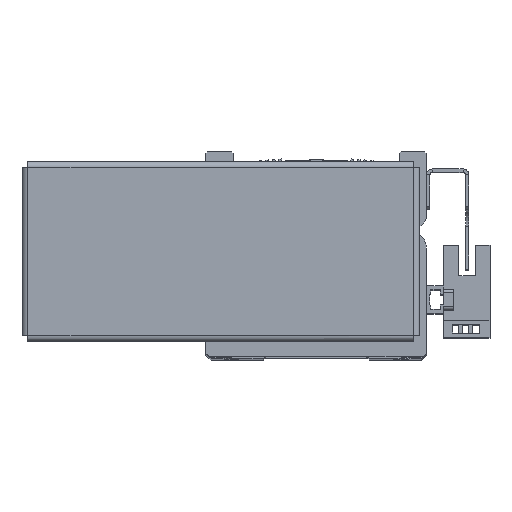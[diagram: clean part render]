
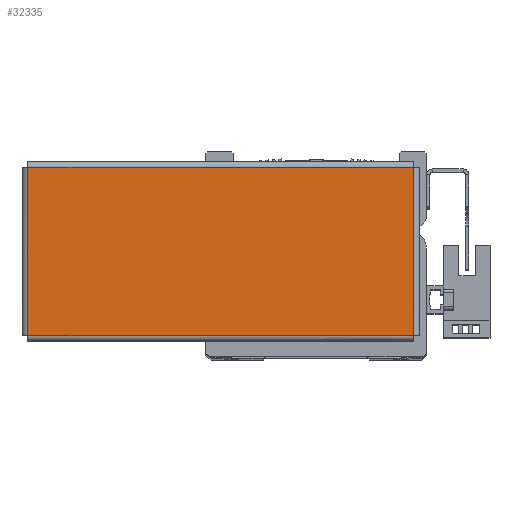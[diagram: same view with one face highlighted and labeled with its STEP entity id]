
A CAD part, top view. The second image highlights one B-rep face of the part: STEP entity #32335.
In plain terms, the highlighted planar face has unit normal (0, 0, 1) as drawn and (0, 0, -1) by its records, which use the part's own axes.
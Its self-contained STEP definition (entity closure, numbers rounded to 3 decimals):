
#719 = EDGE_LOOP ( 'NONE', ( #37525, #37520, #37532, #37524 ) ) ;
#2849 = EDGE_CURVE ( 'NONE', #37013, #37016, #7658, .T. ) ;
#2931 = EDGE_CURVE ( 'NONE', #37018, #36980, #7880, .T. ) ;
#2948 = EDGE_CURVE ( 'NONE', #37016, #37018, #7871, .T. ) ;
#2958 = EDGE_CURVE ( 'NONE', #36980, #37013, #6794, .T. ) ;
#6742 = VECTOR ( 'NONE', #27023, 1000. ) ;
#6794 = LINE ( 'NONE', #26959, #6742 ) ;
#7658 = LINE ( 'NONE', #26575, #7659 ) ;
#7659 = VECTOR ( 'NONE', #26576, 1000. ) ;
#7860 = VECTOR ( 'NONE', #26913, 1000. ) ;
#7871 = LINE ( 'NONE', #26987, #7872 ) ;
#7872 = VECTOR ( 'NONE', #26982, 1000. ) ;
#7880 = LINE ( 'NONE', #26932, #7860 ) ;
#10591 = CARTESIAN_POINT ( 'NONE',  ( -56.863, 24.763, -1. ) ) ;
#10597 = CARTESIAN_POINT ( 'NONE',  ( -56.863, -24.763, -1. ) ) ;
#10617 = CARTESIAN_POINT ( 'NONE',  ( 56.863, 24.763, -1. ) ) ;
#10644 = CARTESIAN_POINT ( 'NONE',  ( 56.863, -24.763, -1. ) ) ;
#20642 = DIRECTION ( 'NONE',  ( 0., 0., 1. ) ) ;
#20656 = PLANE ( 'NONE',  #31112 ) ;
#20657 = CARTESIAN_POINT ( 'NONE',  ( 0., 0., -1. ) ) ;
#20659 = DIRECTION ( 'NONE',  ( 1., 0., 0. ) ) ;
#21241 = FACE_OUTER_BOUND ( 'NONE', #719, .T. ) ;
#26575 = CARTESIAN_POINT ( 'NONE',  ( -56.893, 24.763, -1. ) ) ;
#26576 = DIRECTION ( 'NONE',  ( 1., 0., 0. ) ) ;
#26913 = DIRECTION ( 'NONE',  ( -1., 0., 0. ) ) ;
#26932 = CARTESIAN_POINT ( 'NONE',  ( 56.893, -24.763, -1. ) ) ;
#26959 = CARTESIAN_POINT ( 'NONE',  ( -56.863, -24.793, -1. ) ) ;
#26982 = DIRECTION ( 'NONE',  ( 0., -1., 0. ) ) ;
#26987 = CARTESIAN_POINT ( 'NONE',  ( 56.863, 24.793, -1. ) ) ;
#27023 = DIRECTION ( 'NONE',  ( 0., 1., 0. ) ) ;
#31112 = AXIS2_PLACEMENT_3D ( 'NONE', #20657, #20642, #20659 ) ;
#32335 = ADVANCED_FACE ( 'NONE', ( #21241 ), #20656, .F. ) ;
#36980 = VERTEX_POINT ( 'NONE', #10597 ) ;
#37013 = VERTEX_POINT ( 'NONE', #10591 ) ;
#37016 = VERTEX_POINT ( 'NONE', #10617 ) ;
#37018 = VERTEX_POINT ( 'NONE', #10644 ) ;
#37520 = ORIENTED_EDGE ( 'NONE', *, *, #2931, .T. ) ;
#37524 = ORIENTED_EDGE ( 'NONE', *, *, #2849, .T. ) ;
#37525 = ORIENTED_EDGE ( 'NONE', *, *, #2948, .T. ) ;
#37532 = ORIENTED_EDGE ( 'NONE', *, *, #2958, .T. ) ;
